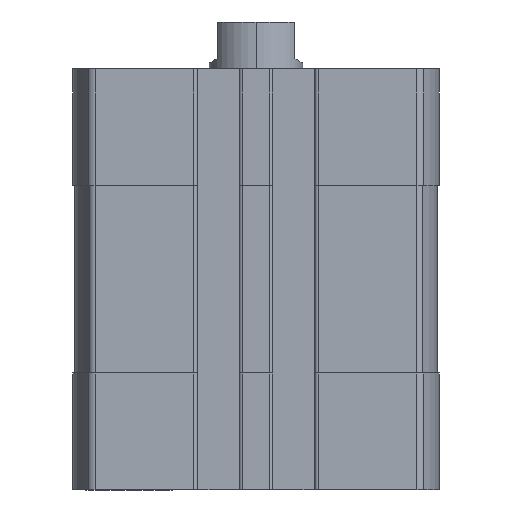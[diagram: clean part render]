
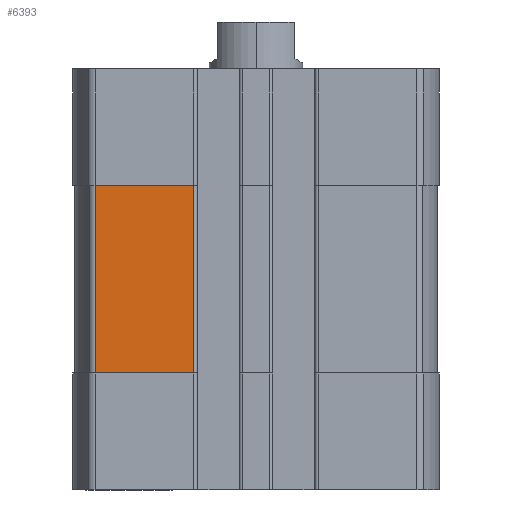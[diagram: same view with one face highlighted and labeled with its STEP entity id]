
A CAD part, left-side view. The second image highlights one B-rep face of the part: STEP entity #6393.
In plain terms, the highlighted planar face has unit normal (-1, 0, 0).
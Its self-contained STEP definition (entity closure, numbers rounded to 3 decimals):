
#1162 = EDGE_CURVE ( 'NONE', #12186, #14366, #13134, .T. ) ;
#1866 = DIRECTION ( 'NONE',  ( -1., 0., 0. ) ) ;
#2158 = ORIENTED_EDGE ( 'NONE', *, *, #1162, .F. ) ;
#2231 = ORIENTED_EDGE ( 'NONE', *, *, #11850, .T. ) ;
#2857 = CARTESIAN_POINT ( 'NONE',  ( -23.25, 20.543, -39. ) ) ;
#3034 = CARTESIAN_POINT ( 'NONE',  ( -23.25, 0., -15. ) ) ;
#3344 = CARTESIAN_POINT ( 'NONE',  ( -23.25, 20.543, -39. ) ) ;
#3694 = VERTEX_POINT ( 'NONE', #14975 ) ;
#4020 = LINE ( 'NONE', #3034, #6840 ) ;
#4617 = VECTOR ( 'NONE', #11449, 1000. ) ;
#5576 = DIRECTION ( 'NONE',  ( 0., 0., -1. ) ) ;
#6393 = ADVANCED_FACE ( 'NONE', ( #12324 ), #12645, .T. ) ;
#6742 = EDGE_CURVE ( 'NONE', #3694, #13383, #10989, .T. ) ;
#6749 = VECTOR ( 'NONE', #5576, 1000. ) ;
#6840 = VECTOR ( 'NONE', #12653, 1000. ) ;
#6920 = EDGE_LOOP ( 'NONE', ( #2231, #2158, #7115, #11488 ) ) ;
#7115 = ORIENTED_EDGE ( 'NONE', *, *, #8339, .T. ) ;
#7907 = AXIS2_PLACEMENT_3D ( 'NONE', #15010, #1866, #10262 ) ;
#8172 = CARTESIAN_POINT ( 'NONE',  ( -23.25, 7.95, -39. ) ) ;
#8244 = CARTESIAN_POINT ( 'NONE',  ( -23.25, 20.543, -39. ) ) ;
#8339 = EDGE_CURVE ( 'NONE', #12186, #3694, #4020, .T. ) ;
#10262 = DIRECTION ( 'NONE',  ( 0., 0., 1. ) ) ;
#10304 = VECTOR ( 'NONE', #14141, 1000. ) ;
#10989 = LINE ( 'NONE', #2857, #4617 ) ;
#11449 = DIRECTION ( 'NONE',  ( 0., 0., -1. ) ) ;
#11488 = ORIENTED_EDGE ( 'NONE', *, *, #6742, .T. ) ;
#11850 = EDGE_CURVE ( 'NONE', #13383, #14366, #13498, .T. ) ;
#12186 = VERTEX_POINT ( 'NONE', #12421 ) ;
#12324 = FACE_OUTER_BOUND ( 'NONE', #6920, .T. ) ;
#12421 = CARTESIAN_POINT ( 'NONE',  ( -23.25, 7.95, -15. ) ) ;
#12645 = PLANE ( 'NONE',  #7907 ) ;
#12653 = DIRECTION ( 'NONE',  ( 0., 1., 0. ) ) ;
#12781 = CARTESIAN_POINT ( 'NONE',  ( -23.25, 7.95, -39. ) ) ;
#13134 = LINE ( 'NONE', #12781, #6749 ) ;
#13383 = VERTEX_POINT ( 'NONE', #8244 ) ;
#13498 = LINE ( 'NONE', #3344, #10304 ) ;
#14141 = DIRECTION ( 'NONE',  ( 0., -1., 0. ) ) ;
#14366 = VERTEX_POINT ( 'NONE', #8172 ) ;
#14975 = CARTESIAN_POINT ( 'NONE',  ( -23.25, 20.543, -15. ) ) ;
#15010 = CARTESIAN_POINT ( 'NONE',  ( -23.25, 20.543, -39. ) ) ;
